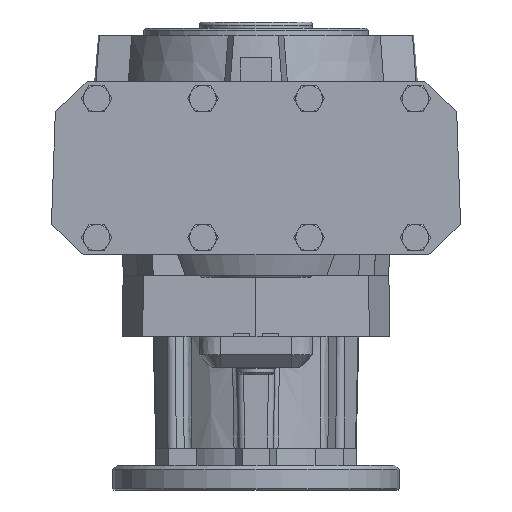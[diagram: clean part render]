
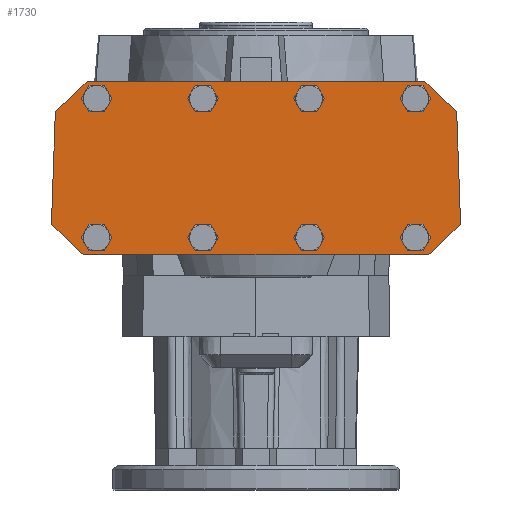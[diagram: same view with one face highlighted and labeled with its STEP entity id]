
A CAD part, front view. The second image highlights one B-rep face of the part: STEP entity #1730.
In plain terms, the highlighted planar face has unit normal (0, -1, 0).
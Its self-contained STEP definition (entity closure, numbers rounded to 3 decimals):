
#1730 = ADVANCED_FACE( '', ( #4038, #4039, #4040, #4041, #4042, #4043, #4044, #4045, #4046 ), #4047, .F. );
#4038 = FACE_BOUND( '', #7286, .T. );
#4039 = FACE_BOUND( '', #7287, .T. );
#4040 = FACE_BOUND( '', #7288, .T. );
#4041 = FACE_BOUND( '', #7289, .T. );
#4042 = FACE_BOUND( '', #7290, .T. );
#4043 = FACE_BOUND( '', #7291, .T. );
#4044 = FACE_BOUND( '', #7292, .T. );
#4045 = FACE_BOUND( '', #7293, .T. );
#4046 = FACE_OUTER_BOUND( '', #7294, .T. );
#4047 = PLANE( '', #7295 );
#7286 = EDGE_LOOP( '', ( #12323 ) );
#7287 = EDGE_LOOP( '', ( #12324 ) );
#7288 = EDGE_LOOP( '', ( #12325 ) );
#7289 = EDGE_LOOP( '', ( #12326 ) );
#7290 = EDGE_LOOP( '', ( #12327 ) );
#7291 = EDGE_LOOP( '', ( #12328 ) );
#7292 = EDGE_LOOP( '', ( #12329 ) );
#7293 = EDGE_LOOP( '', ( #12330 ) );
#7294 = EDGE_LOOP( '', ( #12331, #12332, #12333, #12334, #12335, #12336, #12337, #12338, #12339, #12340 ) );
#7295 = AXIS2_PLACEMENT_3D( '', #12341, #12342, #12343 );
#12323 = ORIENTED_EDGE( '', *, *, #17682, .T. );
#12324 = ORIENTED_EDGE( '', *, *, #18039, .T. );
#12325 = ORIENTED_EDGE( '', *, *, #17634, .T. );
#12326 = ORIENTED_EDGE( '', *, *, #17723, .T. );
#12327 = ORIENTED_EDGE( '', *, *, #18287, .T. );
#12328 = ORIENTED_EDGE( '', *, *, #18288, .T. );
#12329 = ORIENTED_EDGE( '', *, *, #18289, .T. );
#12330 = ORIENTED_EDGE( '', *, *, #18290, .T. );
#12331 = ORIENTED_EDGE( '', *, *, #18291, .F. );
#12332 = ORIENTED_EDGE( '', *, *, #18292, .T. );
#12333 = ORIENTED_EDGE( '', *, *, #18045, .F. );
#12334 = ORIENTED_EDGE( '', *, *, #16921, .F. );
#12335 = ORIENTED_EDGE( '', *, *, #18293, .T. );
#12336 = ORIENTED_EDGE( '', *, *, #18294, .F. );
#12337 = ORIENTED_EDGE( '', *, *, #18295, .T. );
#12338 = ORIENTED_EDGE( '', *, *, #18296, .F. );
#12339 = ORIENTED_EDGE( '', *, *, #18297, .F. );
#12340 = ORIENTED_EDGE( '', *, *, #18181, .T. );
#12341 = CARTESIAN_POINT( '', ( 100., -95., -107.5 ) );
#12342 = DIRECTION( '', ( 0., 1., 0. ) );
#12343 = DIRECTION( '', ( 1., 0., 0. ) );
#16921 = EDGE_CURVE( '', #19777, #19779, #19780, .F. );
#17634 = EDGE_CURVE( '', #20987, #20987, #20988, .T. );
#17682 = EDGE_CURVE( '', #21062, #21062, #21063, .T. );
#17723 = EDGE_CURVE( '', #21127, #21127, #21128, .T. );
#18039 = EDGE_CURVE( '', #21613, #21613, #21614, .T. );
#18045 = EDGE_CURVE( '', #19779, #21622, #21623, .F. );
#18181 = EDGE_CURVE( '', #21828, #21826, #21829, .T. );
#18287 = EDGE_CURVE( '', #21982, #21982, #21983, .T. );
#18288 = EDGE_CURVE( '', #21984, #21984, #21985, .T. );
#18289 = EDGE_CURVE( '', #21986, #21986, #21987, .T. );
#18290 = EDGE_CURVE( '', #21988, #21988, #21989, .T. );
#18291 = EDGE_CURVE( '', #21990, #21826, #21991, .T. );
#18292 = EDGE_CURVE( '', #21990, #21622, #21992, .T. );
#18293 = EDGE_CURVE( '', #19777, #21993, #21994, .T. );
#18294 = EDGE_CURVE( '', #21995, #21993, #21996, .T. );
#18295 = EDGE_CURVE( '', #21995, #21997, #21998, .T. );
#18296 = EDGE_CURVE( '', #21999, #21997, #22000, .F. );
#18297 = EDGE_CURVE( '', #21828, #21999, #22001, .F. );
#19777 = VERTEX_POINT( '', #24024 );
#19779 = VERTEX_POINT( '', #24027 );
#19780 = LINE( '', #24028, #24029 );
#20987 = VERTEX_POINT( '', #25910 );
#20988 = CIRCLE( '', #25911, 5.7 );
#21062 = VERTEX_POINT( '', #26010 );
#21063 = CIRCLE( '', #26011, 5.7 );
#21127 = VERTEX_POINT( '', #26181 );
#21128 = CIRCLE( '', #26182, 5.7 );
#21613 = VERTEX_POINT( '', #26942 );
#21614 = CIRCLE( '', #26943, 5.7 );
#21622 = VERTEX_POINT( '', #26954 );
#21623 = LINE( '', #26955, #26956 );
#21826 = VERTEX_POINT( '', #27314 );
#21828 = VERTEX_POINT( '', #27317 );
#21829 = LINE( '', #27318, #27319 );
#21982 = VERTEX_POINT( '', #27543 );
#21983 = CIRCLE( '', #27544, 5.7 );
#21984 = VERTEX_POINT( '', #27545 );
#21985 = CIRCLE( '', #27546, 5.7 );
#21986 = VERTEX_POINT( '', #27547 );
#21987 = CIRCLE( '', #27548, 5.7 );
#21988 = VERTEX_POINT( '', #27549 );
#21989 = CIRCLE( '', #27550, 5.7 );
#21990 = VERTEX_POINT( '', #27551 );
#21991 = LINE( '', #27552, #27553 );
#21992 = LINE( '', #27554, #27555 );
#21993 = VERTEX_POINT( '', #27556 );
#21994 = LINE( '', #27557, #27558 );
#21995 = VERTEX_POINT( '', #27559 );
#21996 = LINE( '', #27560, #27561 );
#21997 = VERTEX_POINT( '', #27562 );
#21998 = LINE( '', #27563, #27564 );
#21999 = VERTEX_POINT( '', #27565 );
#22000 = LINE( '', #27566, #27567 );
#22001 = LINE( '', #27568, #27569 );
#24024 = CARTESIAN_POINT( '', ( -99.895, -95., -92.509 ) );
#24027 = CARTESIAN_POINT( '', ( -100., -95., -89.5 ) );
#24028 = CARTESIAN_POINT( '', ( -100., -95., -89.5 ) );
#24029 = VECTOR( '', #30135, 1000. );
#25910 = CARTESIAN_POINT( '', ( -26., -95., -93.3 ) );
#25911 = AXIS2_PLACEMENT_3D( '', #30846, #30847, #30848 );
#26010 = CARTESIAN_POINT( '', ( -78., -95., -25.3 ) );
#26011 = AXIS2_PLACEMENT_3D( '', #30913, #30914, #30915 );
#26181 = CARTESIAN_POINT( '', ( 26., -95., -93.3 ) );
#26182 = AXIS2_PLACEMENT_3D( '', #30957, #30958, #30959 );
#26942 = CARTESIAN_POINT( '', ( -78., -95., -93.3 ) );
#26943 = AXIS2_PLACEMENT_3D( '', #31280, #31281, #31282 );
#26954 = CARTESIAN_POINT( '', ( -98.184, -95., -37.491 ) );
#26955 = CARTESIAN_POINT( '', ( -100., -95., -89.5 ) );
#26956 = VECTOR( '', #31286, 1000. );
#27314 = CARTESIAN_POINT( '', ( 82.66, -95., -22.5 ) );
#27317 = CARTESIAN_POINT( '', ( 98.184, -95., -37.491 ) );
#27318 = CARTESIAN_POINT( '', ( 98.184, -95., -37.491 ) );
#27319 = VECTOR( '', #31396, 1000. );
#27543 = CARTESIAN_POINT( '', ( 78., -95., -93.3 ) );
#27544 = AXIS2_PLACEMENT_3D( '', #31499, #31500, #31501 );
#27545 = CARTESIAN_POINT( '', ( 78., -95., -25.3 ) );
#27546 = AXIS2_PLACEMENT_3D( '', #31502, #31503, #31504 );
#27547 = CARTESIAN_POINT( '', ( 26., -95., -25.3 ) );
#27548 = AXIS2_PLACEMENT_3D( '', #31505, #31506, #31507 );
#27549 = CARTESIAN_POINT( '', ( -26., -95., -25.3 ) );
#27550 = AXIS2_PLACEMENT_3D( '', #31508, #31509, #31510 );
#27551 = CARTESIAN_POINT( '', ( -82.66, -95., -22.5 ) );
#27552 = CARTESIAN_POINT( '', ( -100., -95., -22.5 ) );
#27553 = VECTOR( '', #31511, 1000. );
#27554 = CARTESIAN_POINT( '', ( -82.66, -95., -22.5 ) );
#27555 = VECTOR( '', #31512, 1000. );
#27556 = CARTESIAN_POINT( '', ( -84.371, -95., -107.5 ) );
#27557 = CARTESIAN_POINT( '', ( -99.895, -95., -92.509 ) );
#27558 = VECTOR( '', #31513, 1000. );
#27559 = CARTESIAN_POINT( '', ( 84.371, -95., -107.5 ) );
#27560 = CARTESIAN_POINT( '', ( 100., -95., -107.5 ) );
#27561 = VECTOR( '', #31514, 1000. );
#27562 = CARTESIAN_POINT( '', ( 99.895, -95., -92.509 ) );
#27563 = CARTESIAN_POINT( '', ( 84.371, -95., -107.5 ) );
#27564 = VECTOR( '', #31515, 1000. );
#27565 = CARTESIAN_POINT( '', ( 100., -95., -89.5 ) );
#27566 = CARTESIAN_POINT( '', ( 100., -95., -89.5 ) );
#27567 = VECTOR( '', #31516, 1000. );
#27568 = CARTESIAN_POINT( '', ( 100., -95., -89.5 ) );
#27569 = VECTOR( '', #31517, 1000. );
#30135 = DIRECTION( '', ( 0.035, 0., -0.999 ) );
#30846 = CARTESIAN_POINT( '', ( -26., -95., -99. ) );
#30847 = DIRECTION( '', ( 0., 1., 0. ) );
#30848 = DIRECTION( '', ( 0., 0., 1. ) );
#30913 = CARTESIAN_POINT( '', ( -78., -95., -31. ) );
#30914 = DIRECTION( '', ( 0., 1., 0. ) );
#30915 = DIRECTION( '', ( 0., 0., 1. ) );
#30957 = CARTESIAN_POINT( '', ( 26., -95., -99. ) );
#30958 = DIRECTION( '', ( 0., 1., 0. ) );
#30959 = DIRECTION( '', ( 0., 0., 1. ) );
#31280 = CARTESIAN_POINT( '', ( -78., -95., -99. ) );
#31281 = DIRECTION( '', ( 0., 1., 0. ) );
#31282 = DIRECTION( '', ( 0., 0., 1. ) );
#31286 = DIRECTION( '', ( -0.035, 0., -0.999 ) );
#31396 = DIRECTION( '', ( -0.719, 0., 0.695 ) );
#31499 = CARTESIAN_POINT( '', ( 78., -95., -99. ) );
#31500 = DIRECTION( '', ( 0., 1., 0. ) );
#31501 = DIRECTION( '', ( 0., 0., 1. ) );
#31502 = CARTESIAN_POINT( '', ( 78., -95., -31. ) );
#31503 = DIRECTION( '', ( 0., 1., 0. ) );
#31504 = DIRECTION( '', ( 0., 0., 1. ) );
#31505 = CARTESIAN_POINT( '', ( 26., -95., -31. ) );
#31506 = DIRECTION( '', ( 0., 1., 0. ) );
#31507 = DIRECTION( '', ( 0., 0., 1. ) );
#31508 = CARTESIAN_POINT( '', ( -26., -95., -31. ) );
#31509 = DIRECTION( '', ( 0., 1., 0. ) );
#31510 = DIRECTION( '', ( 0., 0., 1. ) );
#31511 = DIRECTION( '', ( 1., 0., 0. ) );
#31512 = DIRECTION( '', ( -0.719, 0., -0.695 ) );
#31513 = DIRECTION( '', ( 0.719, 0., -0.695 ) );
#31514 = DIRECTION( '', ( -1., 0., 0. ) );
#31515 = DIRECTION( '', ( 0.719, 0., 0.695 ) );
#31516 = DIRECTION( '', ( 0.035, 0., 0.999 ) );
#31517 = DIRECTION( '', ( -0.035, 0., 0.999 ) );
